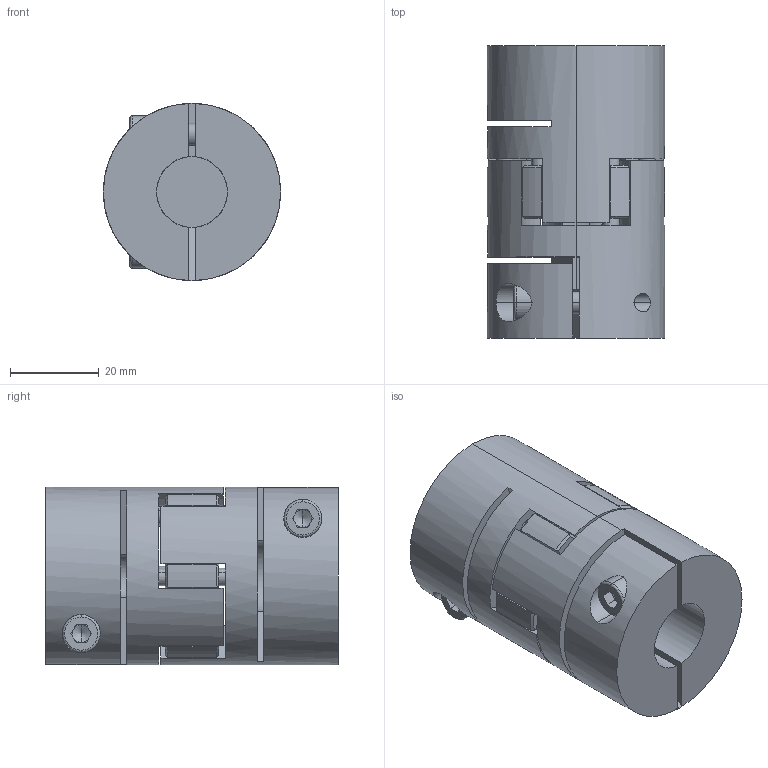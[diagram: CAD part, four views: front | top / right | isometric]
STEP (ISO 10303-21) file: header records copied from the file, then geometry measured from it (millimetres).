
FILE_DESCRIPTION (( 'STEP AP214' ), '1' );
FILE_NAME ('2.5005 Sakarakytkin MM2 40 D10_16.STEP', '2024-05-30T12:43:00', ( '' ), ( '' ), 'SwSTEP 2.0', 'SolidWorks 2024', '' );
FILE_SCHEMA (( 'AUTOMOTIVE_DESIGN' ));
Length unit declared in the file: millimetre
Products named in the file (1): 2.5005 Sakarakytkin MM2 40 D10_16
Bounding box: 40 x 66 x 40 mm (x, y, z)
Volume: 68398.2 mm3; surface area: 25366.3 mm2
Topology: 5 solids, 5 shells, 236 faces, 577 edges, 362 vertices
Faces by surface type: cylinder 97, plane 83, cone 48, bspline 8
Entity records: 9270 total; most frequent: CARTESIAN_POINT 1888, DIRECTION 1229, ORIENTED_EDGE 1146, EDGE_CURVE 573, AXIS2_PLACEMENT_3D 503, VERTEX_POINT 362, CIRCLE 274, EDGE_LOOP 263
